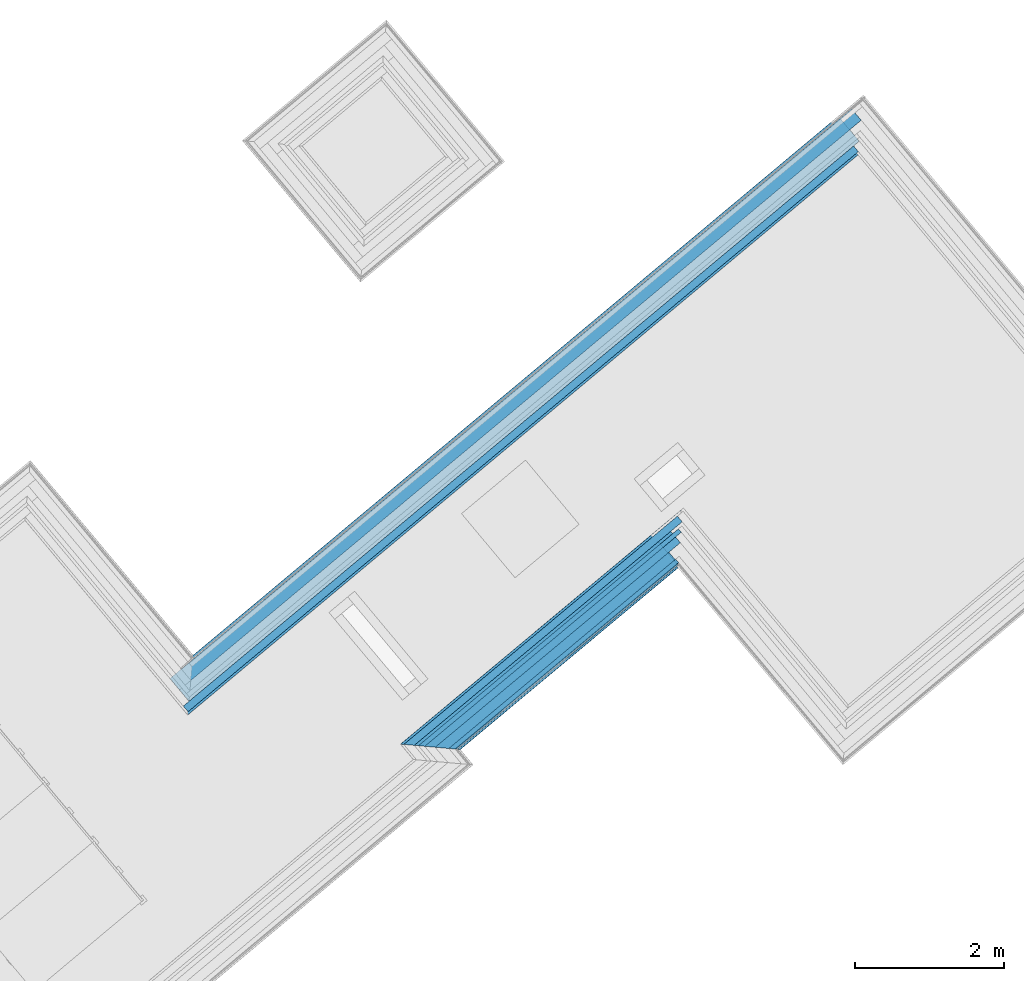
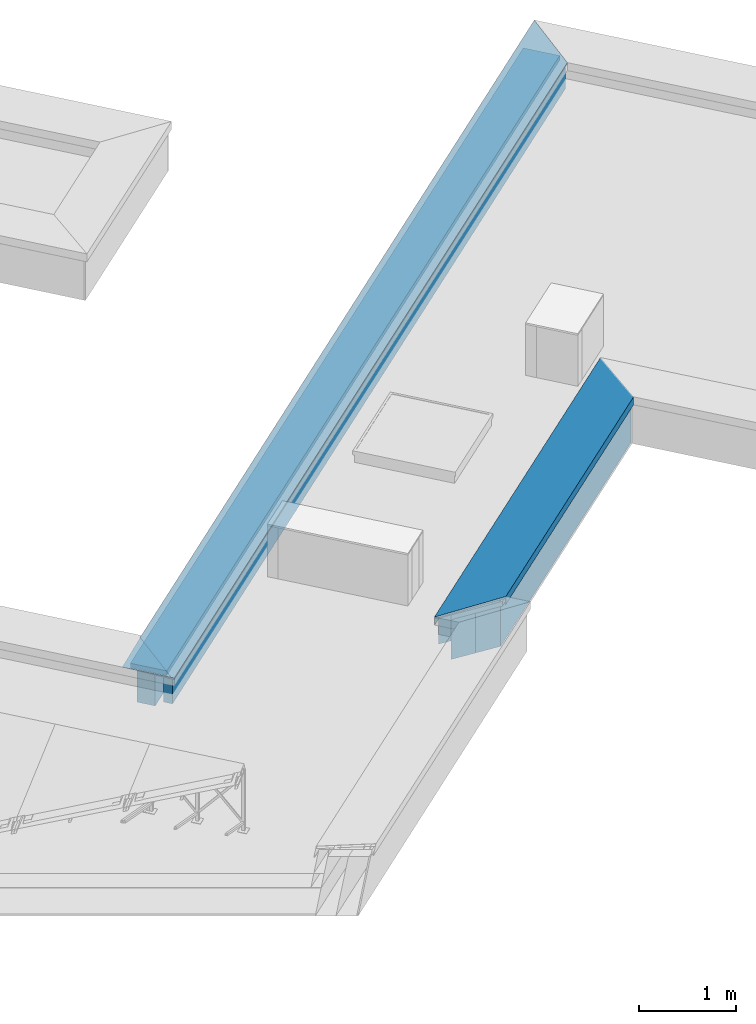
# One storey, part 5 of 13: 12 building element parts, 2 elements without a shape of their own.
"""IFC4 building model written with IfcOpenShell, lengths in metres."""

from ifc_helpers import new_model, entity, si_unit, converted_unit, derived_unit, direction, frame, origin_with_axes, place, context, subcontext, project, spatial, polygons, material, type_object, element, aggregate, save


model = new_model("IFC4")

# Units and contexts
model_context = context("Model", 3, precision=1e-05, world=origin_with_axes(), true_north=direction((0.0, 1.0)))
body_context = subcontext(model_context, "Body", "Model", "MODEL_VIEW")
ifc_project = project(units=[si_unit("LENGTHUNIT", "METRE"), si_unit("AREAUNIT", "SQUARE_METRE"), si_unit("VOLUMEUNIT", "CUBIC_METRE"), converted_unit("PLANEANGLEUNIT", "DEGREE", entity("IfcPlaneAngleMeasure", 0.0174532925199), si_unit("PLANEANGLEUNIT", "RADIAN"), dimensions=[0, 0, 0, 0, 0, 0, 0]), converted_unit("TIMEUNIT", "Year", entity("IfcTimeMeasure", 31556926.0), si_unit("TIMEUNIT", "SECOND"), dimensions=[0, 0, 1, 0, 0, 0, 0]), si_unit("MASSUNIT", "GRAM", prefix="KILO"), si_unit("THERMODYNAMICTEMPERATUREUNIT", "DEGREE_CELSIUS"), si_unit("LUMINOUSINTENSITYUNIT", "LUMEN"), si_unit("ENERGYUNIT", "JOULE", prefix="MEGA"), derived_unit("THERMALCONDUCTANCEUNIT", [(si_unit("POWERUNIT", "WATT"), 1), (si_unit("LENGTHUNIT", "METRE"), -1), (si_unit("THERMODYNAMICTEMPERATUREUNIT", "KELVIN"), -1)]), derived_unit("SPECIFICHEATCAPACITYUNIT", [(si_unit("ENERGYUNIT", "JOULE"), 1), (si_unit("MASSUNIT", "GRAM", prefix="KILO"), -1), (si_unit("THERMODYNAMICTEMPERATUREUNIT", "KELVIN"), -1)]), derived_unit("MASSDENSITYUNIT", [(si_unit("MASSUNIT", "GRAM", prefix="KILO"), 1), (si_unit("VOLUMEUNIT", "CUBIC_METRE"), -1)])], contexts=[model_context])

# Site, building, storey
site_placement = place(None, frame((-0.00153261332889, -0.00661245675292, 0.0), z_axis=(0.0, 0.0, 1.0), x_axis=(1.0, 0.0, 0.0)))
site = spatial("IfcSite", under=ifc_project, at=site_placement, Name="Gelände", CompositionType="ELEMENT")
building_placement = place(site_placement, origin_with_axes())
building = spatial("IfcBuilding", under=site, at=building_placement, Name="Gebäude", CompositionType="ELEMENT")
storey_placement = place(building_placement, frame((0.0, 0.0, 11.84), z_axis=(0.0, 0.0, 1.0), x_axis=(1.0, 0.0, 0.0)))
storey = spatial("IfcBuildingStorey", under=building, at=storey_placement, Name="DA", CompositionType="ELEMENT", Elevation=11.84)

# Wall, building element parts
wall_type_1 = type_object("IfcWallType", Name="Bauteil - Attika Stehfalz 574 x 670", PredefinedType="NOTDEFINED")
wall_1_placement = place(storey_placement, frame((-0.976428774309, 18.8021580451, 0.0), z_axis=(0.0, 0.0, 1.0), x_axis=(0.767365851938, 0.641209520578, 0.0)))
wall_1 = element("IfcWall", 1, at=wall_1_placement, inside=storey, type_object=wall_type_1, Name="Wand-004", PredefinedType="NOTDEFINED")
ifc_material_1 = material(Name="EPS 1")
building_element_part_1_placement = place(wall_1_placement, origin_with_axes())
building_element_part_1 = element("IfcBuildingElementPart", 2, at=building_element_part_1_placement, material=ifc_material_1, Name="EPS 1", PredefinedType="NOTDEFINED", context=body_context, shape_type="Tessellation", body=[
    polygons([(11.7621019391, 0.19999996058, 0.5), (0.0, 0.19999996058, 0.5), (0.0, -1.2725180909e-09, 0.5), (11.7621019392, -1.27252164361e-09, 0.5), (0.0, 0.19999996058, 0.491006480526), (0.0, 0.19999996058, 0.498822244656), (11.7621019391, 0.19999996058, 0.498822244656), (11.7621019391, 0.19999996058, 0.491006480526), (11.7621019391, 0.19999996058, 0.488695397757), (11.7621019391, 0.19999996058, 0.235000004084), (11.7621019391, 0.19999996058, 0.0), (11.7621019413, 0.19999996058, -0.06), (7.48079768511, 0.19999996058, -0.06), (7.48079768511, 0.19999996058, -0.00130460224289), (7.48079768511, 0.19999996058, 0.00100648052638), (7.48079768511, 0.19999996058, 0.00882224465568), (7.48079768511, 0.19999996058, 0.01), (7.2807976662, 0.19999996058, 0.01), (7.28079766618, 0.19999996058, 0.00882224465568), (7.28079766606, 0.19999996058, 0.00100648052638), (7.28079766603, 0.19999996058, -0.00130460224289), (7.28079766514, 0.19999996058, -0.06), (5.63007431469, 0.19999996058, -0.06), (5.63007431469, 0.19999996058, 0.0), (5.43007429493, 0.19999996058, 0.0), (5.43007429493, 0.19999996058, -0.06), (0.0, 0.19999996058, -0.06), (0.0, 0.19999996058, 0.0), (0.0, 0.19999996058, 0.235000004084), (0.0, 0.19999996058, 0.488695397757), (0.0, -1.2725180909e-09, 0.498822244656), (0.0, -1.2725180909e-09, 0.491006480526), (0.0, -1.2725180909e-09, 0.488695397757), (0.0, -1.2725180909e-09, 0.235000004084), (0.0, -1.27251986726e-09, 0.0), (0.0, -1.27251986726e-09, -0.06), (5.42998538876, -1.2725180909e-09, -0.06), (5.42998538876, -1.2725180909e-09, 0.0), (5.62998540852, -1.2725180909e-09, 0.0), (5.62998540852, -1.2725180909e-09, -0.06), (7.28071069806, -1.27251986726e-09, -0.06), (7.28071069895, -1.27251986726e-09, -0.00130460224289), (7.28071069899, -1.27251986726e-09, 0.00100648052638), (7.2807106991, -1.2725180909e-09, 0.00882224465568), (7.28071069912, -1.2725180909e-09, 0.01), (7.48071071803, -1.2725180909e-09, 0.01), (7.48071071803, -1.2725180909e-09, 0.00882224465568), (7.48071071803, -1.2725180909e-09, 0.00100648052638), (7.48071071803, -1.2725180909e-09, -0.00130460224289), (7.48071071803, -1.27251986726e-09, -0.06), (11.7621019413, -1.2725180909e-09, -0.06), (11.7621019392, -1.27251986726e-09, 0.0), (11.7621019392, -1.27251986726e-09, 0.235000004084), (11.7621019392, -1.27251986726e-09, 0.488695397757), (11.7621019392, -1.27251986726e-09, 0.491006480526), (11.7621019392, -1.27251986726e-09, 0.498822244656)], [[[1, 2, 3, 4]], [[5, 6, 2, 1, 7, 8, 9, 10, 11, 12, 13, 14, 15, 16, 17, 18, 19, 20, 21, 22, 23, 24, 25, 26, 27, 28, 29, 30]], [[6, 31, 3, 2]], [[4, 3, 31, 32, 33, 34, 35, 36, 37, 38, 39, 40, 41, 42, 43, 44, 45, 46, 47, 48, 49, 50, 51, 52, 53, 54, 55, 56]], [[7, 1, 4, 56]], [[32, 31, 6, 5]], [[8, 7, 56, 55]], [[9, 8, 55, 54]], [[10, 9, 54, 53]], [[11, 10, 53, 52]], [[12, 11, 52, 51]], [[51, 50, 13, 12]], [[50, 49, 14, 13]], [[49, 48, 15, 14]], [[48, 47, 16, 15]], [[16, 47, 46, 17]], [[17, 46, 45, 18]], [[18, 45, 44, 19]], [[20, 19, 44, 43]], [[21, 20, 43, 42]], [[22, 21, 42, 41]], [[23, 22, 41, 40]], [[23, 40, 39, 24]], [[24, 39, 38, 25]], [[25, 38, 37, 26]], [[27, 26, 37, 36]], [[36, 35, 28, 27]], [[35, 34, 29, 28]], [[34, 33, 30, 29]], [[33, 32, 5, 30]]], closed=True),
])
ifc_material_2 = material(Name="Brettschichtholz")
building_element_part_2_placement = place(wall_1_placement, origin_with_axes())
building_element_part_2 = element("IfcBuildingElementPart", 3, at=building_element_part_2_placement, material=ifc_material_2, Name="Brettschichtholz", PredefinedType="NOTDEFINED", context=body_context, shape_type="Tessellation", body=[
    polygons([(-0.200000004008, -0.159999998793, 0.560000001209), (-0.200000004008, -0.200000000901, 0.560000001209), (11.5621019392, -0.200000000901, 0.560000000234), (11.5621019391, -0.159999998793, 0.560000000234), (-0.200000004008, -0.200000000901, 0.519224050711), (-0.200000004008, -0.09999999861, 0.560000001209), (-0.200000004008, 0.13012497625, 0.560000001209), (-0.200000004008, 0.190124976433, 0.560000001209), (-0.200000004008, 0.19999996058, 0.560000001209), (-0.200000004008, 0.19999996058, 0.519224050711), (-0.200000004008, -0.200000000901, 0.51136132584), (-0.200000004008, -0.200000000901, 0.509050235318), (-0.200000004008, -0.200000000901, 0.499999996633), (11.5621019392, -0.200000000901, 0.499999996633), (11.5621019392, -0.200000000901, 0.509050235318), (11.5621019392, -0.200000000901, 0.51136132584), (11.5621019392, -0.200000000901, 0.519224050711), (11.5621019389, 0.19999996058, 0.519224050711), (11.5621019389, 0.19999996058, 0.560000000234), (11.5621019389, 0.190124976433, 0.560000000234), (11.562101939, 0.13012497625, 0.560000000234), (11.5621019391, -0.09999999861, 0.560000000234), (11.5621019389, 0.19999996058, 0.51136132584), (11.5621019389, 0.19999996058, 0.509050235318), (11.5621019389, 0.19999996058, 0.499999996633), (-0.200000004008, 0.19999996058, 0.499999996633), (-0.200000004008, 0.19999996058, 0.509050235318), (-0.200000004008, 0.19999996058, 0.51136132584)], [[[1, 2, 3, 4]], [[5, 2, 1, 6, 7, 8, 9, 10]], [[2, 5, 11, 12, 13, 14, 15, 16, 17, 3]], [[4, 3, 17, 18, 19, 20, 21, 22]], [[6, 1, 4, 22]], [[7, 6, 22, 21]], [[8, 7, 21, 20]], [[9, 8, 20, 19]], [[10, 9, 19, 18, 23, 24, 25, 26, 27, 28]], [[5, 10, 28, 11]], [[11, 28, 27, 12]], [[12, 27, 26, 13]], [[13, 26, 25, 14]], [[24, 15, 14, 25]], [[23, 16, 15, 24]], [[18, 17, 16, 23]]], closed=True),
])
building_element_part_3_placement = place(wall_1_placement, origin_with_axes())
building_element_part_3 = element("IfcBuildingElementPart", 4, at=building_element_part_3_placement, material=ifc_material_1, Name="EPS 1", PredefinedType="NOTDEFINED", context=body_context, shape_type="Tessellation", body=[
    polygons([(-0.299999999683, -0.20000000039, 0.560000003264), (-0.299999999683, -0.300000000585, 0.560000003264), (11.4621019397, -0.300000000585, 0.560000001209), (11.4621019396, -0.20000000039, 0.560000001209), (-0.30000000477, -0.300000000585, 0.519224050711), (-0.30000000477, -0.20000000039, 0.519224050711), (-0.300000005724, -0.300000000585, 0.51136132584), (-0.300000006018, -0.300000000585, 0.509050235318), (-0.300000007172, -0.300000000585, 0.499999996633), (-0.300000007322, -0.300000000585, 0.498822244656), (-0.300000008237, -0.300000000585, 0.491006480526), (-0.300000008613, -0.300000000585, 0.4886954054), (-0.30000000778, -0.300000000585, 0.23500000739), (11.4621019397, -0.300000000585, 0.235000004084), (11.4621019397, -0.300000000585, 0.488695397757), (11.4621019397, -0.300000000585, 0.491006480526), (11.4621019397, -0.300000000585, 0.498822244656), (11.4621019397, -0.300000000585, 0.499999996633), (11.4621019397, -0.300000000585, 0.509050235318), (11.4621019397, -0.300000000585, 0.51136132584), (11.4621019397, -0.300000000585, 0.519224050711), (11.4621019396, -0.20000000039, 0.519224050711), (11.4621019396, -0.20000000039, 0.51136132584), (11.4621019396, -0.20000000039, 0.509050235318), (11.4621019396, -0.20000000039, 0.499999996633), (11.4621019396, -0.20000000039, 0.498822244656), (11.4621019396, -0.20000000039, 0.491006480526), (11.4621019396, -0.20000000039, 0.488695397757), (11.4621019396, -0.20000000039, 0.235000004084), (-0.30000000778, -0.20000000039, 0.23500000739), (-0.300000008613, -0.20000000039, 0.4886954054), (-0.300000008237, -0.20000000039, 0.491006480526), (-0.300000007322, -0.20000000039, 0.498822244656), (-0.300000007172, -0.20000000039, 0.499999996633), (-0.300000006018, -0.20000000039, 0.509050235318), (-0.300000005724, -0.20000000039, 0.51136132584)], [[[1, 2, 3, 4]], [[5, 2, 1, 6]], [[2, 5, 7, 8, 9, 10, 11, 12, 13, 14, 15, 16, 17, 18, 19, 20, 21, 3]], [[4, 3, 21, 22]], [[6, 1, 4, 22, 23, 24, 25, 26, 27, 28, 29, 30, 31, 32, 33, 34, 35, 36]], [[5, 6, 36, 7]], [[7, 36, 35, 8]], [[8, 35, 34, 9]], [[9, 34, 33, 10]], [[10, 33, 32, 11]], [[11, 32, 31, 12]], [[12, 31, 30, 13]], [[29, 14, 13, 30]], [[28, 15, 14, 29]], [[27, 16, 15, 28]], [[26, 17, 16, 27]], [[25, 18, 17, 26]], [[24, 19, 18, 25]], [[23, 20, 19, 24]], [[22, 21, 20, 23]]], closed=True),
])
ifc_material_3 = material(Name="Holzwerkstoff")
building_element_part_4_placement = place(wall_1_placement, origin_with_axes())
building_element_part_4 = element("IfcBuildingElementPart", 5, at=building_element_part_4_placement, material=ifc_material_3, Name="Holzwerkstoff", PredefinedType="NOTDEFINED", context=body_context, shape_type="Tessellation", body=[
    polygons([(-0.330207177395, -0.160110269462, 0.573880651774), (-0.329999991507, -0.329999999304, 0.567947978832), (-0.330207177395, -0.330207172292, 0.573880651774), (11.4318947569, -0.160110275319, 0.573880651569), (11.4321019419, -0.329999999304, 0.567947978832), (-0.330634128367, -0.330634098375, 0.586106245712), (-0.330561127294, -0.330561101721, 0.584015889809), (-0.330280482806, -0.330280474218, 0.575979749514), (11.431894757, -0.330207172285, 0.573880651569), (11.4318214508, -0.330280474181, 0.575979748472), (11.4315408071, -0.330561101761, 0.584015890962), (11.4314678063, -0.330634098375, 0.586106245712), (11.4314038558, -0.330698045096, 0.587937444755), (-0.330665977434, -0.330698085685, 0.587938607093), (-0.330698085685, -0.330698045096, 0.587937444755), (-0.330280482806, -0.10000001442, 0.575979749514), (11.4318214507, -0.100000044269, 0.575979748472), (-0.330634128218, 0.189984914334, 0.586106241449), (-0.330561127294, 0.130125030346, 0.584015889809), (11.4315408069, 0.130125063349, 0.584015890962), (11.431467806, 0.189985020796, 0.586106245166), (11.4314068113, 0.239999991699, 0.587852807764), (11.4314038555, 0.23999703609, 0.587937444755), (0.239276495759, 0.239276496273, 0.608570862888), (12.0013783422, 0.239276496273, 0.608570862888), (-0.330698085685, 0.23999703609, 0.587937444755), (-0.330698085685, 0.239999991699, 0.587852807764)], [[[1, 2, 3]], [[2, 1, 4, 5]], [[6, 7, 8, 3, 2, 5, 9, 10, 11, 12, 13, 14, 15]], [[16, 1, 3, 8]], [[1, 16, 17, 4]], [[5, 4, 9]], [[7, 6, 18, 19]], [[8, 7, 19, 16]], [[4, 17, 10, 9]], [[17, 20, 11, 10]], [[20, 21, 12, 11]], [[13, 12, 21, 22, 23]], [[24, 14, 13, 25]], [[15, 14, 24, 26]], [[6, 15, 26, 27, 18]], [[16, 19, 20, 17]], [[19, 18, 21, 20]], [[18, 27, 22, 21]], [[27, 26, 24, 25, 23, 22]], [[25, 13, 23]]], closed=True),
])
aggregate(wall_1, [building_element_part_1, building_element_part_2, building_element_part_3, building_element_part_4])

wall_type_2 = type_object("IfcWallType", Name="Individuelles Profil 574 x 610", PredefinedType="NOTDEFINED")
wall_2_placement = place(storey_placement, frame((2.3134110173, 17.9017514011, 0.0), z_axis=(0.0, 0.0, 1.0), x_axis=(0.76785707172, 0.640621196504, 0.0)))
wall_2 = element("IfcWall", 6, at=wall_2_placement, inside=storey, type_object=wall_type_2, Name="Wand-004", PredefinedType="NOTDEFINED")
ifc_material_4 = material(Name="Stahl")
building_element_part_5_placement = place(wall_2_placement, origin_with_axes())
building_element_part_5 = element("IfcBuildingElementPart", 7, at=building_element_part_5_placement, material=ifc_material_4, Name="Stahl", PredefinedType="NOTDEFINED", context=body_context, shape_type="Tessellation", body=[
    polygons([(0.241500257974, -0.241500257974, 0.510007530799), (4.05779835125, -0.241500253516, 0.510007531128), (4.05779835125, -0.241500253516, 0.511361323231), (4.05779835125, -0.241500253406, 0.519224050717), (4.05779835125, -0.241500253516, 0.559999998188), (4.05779835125, -0.241500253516, 0.567947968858), (4.05779835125, -0.241500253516, 0.573880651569), (4.05779835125, -0.241500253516, 0.575979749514), (4.05779835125, -0.241500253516, 0.584015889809), (4.05779835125, -0.241500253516, 0.586106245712), (4.05779835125, -0.241500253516, 0.587937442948), (4.05779835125, -0.241500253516, 0.608570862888), (4.05779835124, -0.241500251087, 0.608602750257), (4.05779834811, -0.241500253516, 0.610006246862), (0.241500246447, -0.241500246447, 0.610006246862), (0.240542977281, -0.240542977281, 0.509050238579), (4.05875428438, -0.240542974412, 0.509050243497), (4.05779563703, -0.239585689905, 0.510007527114), (4.05779371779, -0.238231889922, 0.511361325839), (4.057796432, -0.240146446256, 0.511361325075), (4.05779643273, -0.240146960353, 0.519224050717), (4.0577964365, -0.240149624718, 0.559999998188), (4.05779643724, -0.240150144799, 0.567947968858), (4.05779643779, -0.240150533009, 0.573880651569), (4.05779643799, -0.240150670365, 0.575979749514), (4.05779643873, -0.240151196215, 0.584015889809), (4.05779643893, -0.240151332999, 0.586106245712), (4.0577964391, -0.240151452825, 0.587937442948), (4.05779644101, -0.240152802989, 0.608570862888), (4.05779644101, -0.240152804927, 0.608602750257), (4.05774338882, -0.202730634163, 0.608602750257), (-0.332051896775, 0.332051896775, 0.589243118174), (4.05909083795, -0.202730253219, 0.608602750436), (4.05996589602, -0.201849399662, 0.608570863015), (4.59311659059, 0.332051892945, 0.589243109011), (-0.332051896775, 0.332051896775, 0.489652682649), (-0.331094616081, 0.331094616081, 0.488695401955), (-0.321878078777, 0.321878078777, 0.497911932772), (-0.32288233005, 0.32288233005, 0.498822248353), (-0.330698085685, 0.330698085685, 0.491006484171), (-0.330698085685, 0.330698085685, 0.587937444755), (0.239276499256, -0.239276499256, 0.608570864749), (0.240152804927, -0.240152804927, 0.608602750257), (0.240146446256, -0.240146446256, 0.51136132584), (0.232283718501, -0.232283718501, 0.519224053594), (0.231373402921, -0.231373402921, 0.518219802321), (4.06599629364, -0.23137340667, 0.518219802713), (4.05914752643, -0.238231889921, 0.51136132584), (4.05915024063, -0.24014644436, 0.511361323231), (4.05914389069, -0.240152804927, 0.608602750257), (4.0600189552, -0.239276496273, 0.608570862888), (4.62918607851, 0.330698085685, 0.587937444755), (4.62918415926, 0.332051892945, 0.587937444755), (4.62918415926, 0.332051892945, 0.586106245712), (4.62918415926, 0.332051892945, 0.584015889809), (4.62918415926, 0.332051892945, 0.575979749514), (4.62918415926, 0.332051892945, 0.573880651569), (4.62918415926, 0.332051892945, 0.567947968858), (4.62918415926, 0.332051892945, 0.560000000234), (4.62918415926, 0.332051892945, 0.519224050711), (4.62918415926, 0.332051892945, 0.51136132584), (4.62918415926, 0.332051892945, 0.509050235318), (4.62918415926, 0.332051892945, 0.499999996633), (4.62918415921, 0.332051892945, 0.498822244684), (4.62918415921, 0.332051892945, 0.491006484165), (4.62726960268, 0.332051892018, 0.491006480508), (4.62862340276, 0.332051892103, 0.489652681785), (4.62958204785, 0.331094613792, 0.488695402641), (4.62727423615, 0.328783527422, 0.491006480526), (4.62037856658, 0.32187807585, 0.497911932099), (4.62138139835, 0.322882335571, 0.498822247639), (4.62037585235, 0.323792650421, 0.497911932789), (4.62727152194, 0.33069808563, 0.491006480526), (4.62918607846, 0.330698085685, 0.491006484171), (4.62918607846, 0.330698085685, 0.498822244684), (4.62918607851, 0.330698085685, 0.499999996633), (4.62918607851, 0.330698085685, 0.509050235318), (4.62918607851, 0.330698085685, 0.51136132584), (4.62918607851, 0.330698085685, 0.519224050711), (4.62918607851, 0.330698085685, 0.560000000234), (4.62918607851, 0.330698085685, 0.567947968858), (4.62918607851, 0.330698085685, 0.573880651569), (4.62918607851, 0.330698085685, 0.575979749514), (4.62918607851, 0.330698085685, 0.584015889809), (4.62918607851, 0.330698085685, 0.586106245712), (4.06700183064, -0.23228372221, 0.519224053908)], [[[1, 2, 3, 4, 5, 6, 7, 8, 9, 10, 11, 12, 13, 14, 15]], [[1, 16, 17, 2]], [[18, 19, 20, 3, 2]], [[20, 21, 4, 3]], [[21, 22, 5, 4]], [[5, 22, 23, 6]], [[7, 6, 23, 24]], [[8, 7, 24, 25]], [[9, 8, 25, 26]], [[10, 9, 26, 27]], [[11, 10, 27, 28]], [[12, 11, 28, 29]], [[30, 13, 12, 29]], [[30, 31, 14, 13]], [[32, 15, 14, 31, 33, 34, 35]], [[16, 1, 15, 32, 36, 37, 38, 39, 40, 41, 42, 43, 44, 45, 46]], [[16, 46, 47, 48, 19, 18, 17]], [[18, 2, 17]], [[20, 19, 48, 49]], [[44, 43, 30, 29, 28, 27, 26, 25, 24, 23, 22, 21, 20]], [[33, 31, 30, 50]], [[34, 33, 50, 51]], [[34, 51, 52, 53, 35]], [[36, 32, 35, 53, 54, 55, 56, 57, 58, 59, 60, 61, 62, 63, 64, 65, 66, 67]], [[37, 36, 67, 68]], [[38, 37, 68, 69, 70]], [[39, 38, 70, 71]], [[40, 39, 71, 72, 73]], [[41, 40, 73, 74, 75, 76, 77, 78, 79, 80, 81, 82, 83, 84, 85, 52]], [[42, 41, 52, 51]], [[43, 42, 51, 50, 30]], [[45, 44, 20, 49, 86]], [[46, 45, 86, 47]], [[48, 47, 86, 49]], [[52, 85, 54, 53]], [[84, 55, 54, 85]], [[83, 56, 55, 84]], [[57, 56, 83, 82]], [[58, 57, 82, 81]], [[59, 58, 81, 80]], [[60, 59, 80, 79]], [[61, 60, 79, 78]], [[62, 61, 78, 77]], [[63, 62, 77, 76]], [[64, 63, 76, 75]], [[65, 64, 75, 74]], [[73, 66, 65, 74]], [[66, 73, 69, 68, 67]], [[72, 70, 69, 73]], [[70, 72, 71]]], closed=True),
])
building_element_part_6_placement = place(wall_2_placement, origin_with_axes())
building_element_part_6 = element("IfcBuildingElementPart", 8, at=building_element_part_6_placement, material=ifc_material_3, Name="Holzwerkstoff", PredefinedType="NOTDEFINED", context=body_context, shape_type="Tessellation", body=[
    polygons([(-0.329999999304, 0.329999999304, 0.567947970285), (-0.330698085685, 0.330698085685, 0.587937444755), (4.05849038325, 0.330698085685, 0.587937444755), (4.05848743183, 0.330695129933, 0.587852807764), (4.10850253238, 0.330634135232, 0.586106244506), (4.16836274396, 0.330561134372, 0.584015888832), (4.3984883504, 0.330280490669, 0.575979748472), (4.45859874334, 0.330207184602, 0.573880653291), (4.62848894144, 0.329999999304, 0.567947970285), (0.189984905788, -0.189984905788, 0.586106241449), (0.239999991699, -0.239999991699, 0.587852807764), (0.239276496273, -0.239276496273, 0.608570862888), (-0.160110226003, 0.160110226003, 0.573880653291), (-0.0999999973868, 0.0999999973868, 0.575979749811), (0.130124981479, -0.130124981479, 0.584015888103), (4.06001895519, -0.239276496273, 0.608570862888), (4.05929943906, -0.239997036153, 0.587937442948), (4.0592964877, -0.239999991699, 0.587852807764), (4.10924068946, -0.189984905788, 0.586106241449), (4.16901592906, -0.130124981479, 0.584015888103), (4.39881479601, 0.0999999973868, 0.575979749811), (4.45883988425, 0.160110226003, 0.573880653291)], [[[1, 2, 3, 4, 5, 6, 7, 8, 9]], [[10, 11, 12, 2, 1, 13, 14, 15]], [[2, 12, 16, 3]], [[17, 18, 4, 3]], [[4, 18, 19, 5]], [[6, 5, 19, 20]], [[7, 6, 20, 21]], [[8, 7, 21, 22]], [[22, 9, 8]], [[13, 1, 9, 22]], [[11, 10, 19, 18]], [[12, 11, 18, 17, 16]], [[14, 13, 22, 21]], [[15, 14, 21, 20]], [[10, 15, 20, 19]], [[16, 17, 3]]], closed=True),
])
building_element_part_7_placement = place(wall_2_placement, origin_with_axes())
building_element_part_7 = element("IfcBuildingElementPart", 9, at=building_element_part_7_placement, material=ifc_material_1, Name="EPS 1", PredefinedType="NOTDEFINED", context=body_context, shape_type="Tessellation", body=[
    polygons([(-0.300000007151, 0.300000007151, 0.488695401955), (-0.30000000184, 0.30000000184, 0.560000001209), (4.49853138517, 0.30000000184, 0.560000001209), (4.49853138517, 0.300000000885, 0.519224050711), (4.49853138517, 0.300000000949, 0.51136132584), (4.49853138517, 0.300000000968, 0.509050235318), (4.49853138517, 0.300000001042, 0.499999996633), (4.49853138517, 0.300000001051, 0.498822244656), (4.49853138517, 0.300000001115, 0.491006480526), (4.49853138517, 0.300000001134, 0.488695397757), (4.49853138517, 0.300000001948, 0.23500000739), (-0.300000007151, 0.300000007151, 0.23500000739), (-0.200000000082, 0.200000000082, 0.23500000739), (-0.200000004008, 0.200000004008, 0.560000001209), (4.49867315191, 0.200000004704, 0.560000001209), (4.49867315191, 0.200000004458, 0.519224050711), (4.49867315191, 0.200000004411, 0.51136132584), (4.49867315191, 0.200000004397, 0.509050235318), (4.49867315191, 0.200000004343, 0.499999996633), (4.49867315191, 0.200000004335, 0.498822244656), (4.49867315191, 0.200000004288, 0.491006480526), (4.49867315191, 0.200000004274, 0.488695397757), (4.49867315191, 0.200000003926, 0.23500000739)], [[[1, 2, 3, 4, 5, 6, 7, 8, 9, 10, 11, 12]], [[13, 14, 2, 1, 12]], [[2, 14, 15, 3]], [[15, 16, 4, 3]], [[16, 17, 5, 4]], [[17, 18, 6, 5]], [[18, 19, 7, 6]], [[19, 20, 8, 7]], [[20, 21, 9, 8]], [[21, 22, 10, 9]], [[23, 11, 10, 22]], [[13, 12, 11, 23]], [[14, 13, 23, 22, 21, 20, 19, 18, 17, 16, 15]]], closed=True),
])
ifc_material_5 = material(Name="Vollholz")
building_element_part_8_placement = place(wall_2_placement, origin_with_axes())
building_element_part_8 = element("IfcBuildingElementPart", 10, at=building_element_part_8_placement, material=ifc_material_5, Name="Vollholz", PredefinedType="NOTDEFINED", context=body_context, shape_type="Tessellation", body=[
    polygons([(4.39881481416, 0.1, 0.573880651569), (4.39881481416, 0.100000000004, 0.575979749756), (-0.1, 0.1, 0.575979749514), (-0.1, 0.1, 0.560000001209), (4.39881481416, 0.1, 0.560000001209), (4.39881481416, 0.1, 0.567947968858), (4.39872959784, 0.160110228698, 0.573880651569), (-0.160110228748, 0.160110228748, 0.573880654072), (-0.16, 0.16, 0.560000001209), (4.39872975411, 0.16, 0.560000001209), (4.39872966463, 0.160063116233, 0.567947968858)], [[[1, 2, 3, 4, 5, 6]], [[7, 2, 1]], [[2, 7, 8, 3]], [[9, 4, 3, 8]], [[10, 5, 4, 9]], [[11, 6, 5, 10]], [[7, 1, 6, 11]], [[7, 11, 10, 9, 8]]], closed=True),
])
ifc_material_6 = material(Name="Stahlbeton Wand Garage")
building_element_part_9_placement = place(wall_2_placement, origin_with_axes())
building_element_part_9 = element("IfcBuildingElementPart", 11, at=building_element_part_9_placement, material=ifc_material_6, Name="Stahlbeton Wand Garage", PredefinedType="NOTDEFINED", context=body_context, shape_type="Tessellation", body=[
    polygons([(-0.200000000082, 0.200000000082, 0.0), (-0.200000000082, 0.200000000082, 0.23500000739), (4.29867294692, 0.200000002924, 0.235000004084), (4.29867294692, 0.20000000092, 0.0), (0.0, 0.0, 0.0), (0.0, 0.0, 0.5), (-0.2, 0.2, 0.5), (4.29867294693, 0.2, 0.5), (4.29867294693, 0.200000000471, 0.498822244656), (4.29867294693, 0.200000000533, 0.491006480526), (4.29867294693, 0.200000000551, 0.488695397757), (4.2989564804, 4.3705590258e-09, 0.235000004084), (4.2989564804, 4.43951542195e-09, 0.0), (4.2989564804, 4.29611368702e-09, 0.488695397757), (4.2989564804, 4.29543689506e-09, 0.491006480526), (4.2989564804, 4.29314184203e-09, 0.498822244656), (4.29895648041, 0.0, 0.5)], [[[1, 2, 3, 4]], [[5, 6, 7, 2, 1]], [[2, 7, 8, 9, 10, 11, 3]], [[12, 13, 4, 3]], [[5, 1, 4, 13]], [[6, 5, 13, 12, 14, 15, 16, 17]], [[7, 6, 17, 8]], [[8, 17, 16, 9]], [[10, 9, 16, 15]], [[15, 14, 11, 10]], [[14, 12, 3, 11]]], closed=True),
])
building_element_part_10_placement = place(wall_2_placement, origin_with_axes())
building_element_part_10 = element("IfcBuildingElementPart", 12, at=building_element_part_10_placement, material=ifc_material_2, Name="Brettschichtholz", PredefinedType="NOTDEFINED", context=body_context, shape_type="Tessellation", body=[
    polygons([(4.084261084, -0.214999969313, 0.519224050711), (4.08426108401, -0.214999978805, 0.55999999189), (0.214999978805, -0.214999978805, 0.55999999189), (0.214999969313, -0.214999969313, 0.50000001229), (4.08426108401, -0.214999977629, 0.499999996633), (4.084261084, -0.214999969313, 0.509050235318), (4.084261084, -0.214999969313, 0.51136132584), (4.08422581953, -0.190124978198, 0.55999999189), (4.08367275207, 0.200000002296, 0.519224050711), (4.08367275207, 0.200000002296, 0.55999999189), (4.08372945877, 0.159999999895, 0.55999999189), (4.08381451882, 0.0999999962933, 0.55999999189), (4.08414075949, -0.130124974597, 0.55999999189), (0.190124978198, -0.190124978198, 0.560000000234), (0.130124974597, -0.130124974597, 0.560000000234), (-0.0999999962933, 0.0999999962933, 0.560000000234), (-0.159999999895, 0.159999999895, 0.560000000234), (-0.200000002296, 0.200000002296, 0.560000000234), (-0.200000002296, 0.200000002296, 0.499999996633), (4.08367275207, 0.200000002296, 0.499999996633), (4.08367275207, 0.200000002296, 0.509050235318), (4.08367275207, 0.200000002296, 0.51136132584)], [[[1, 2, 3, 4, 5, 6, 7]], [[8, 2, 1, 9, 10, 11, 12, 13]], [[2, 8, 14, 3]], [[4, 3, 14, 15, 16, 17, 18, 19]], [[20, 5, 4, 19]], [[21, 6, 5, 20]], [[22, 7, 6, 21]], [[9, 1, 7, 22]], [[10, 9, 22, 21, 20, 19, 18]], [[11, 10, 18, 17]], [[12, 11, 17, 16]], [[13, 12, 16, 15]], [[8, 13, 15, 14]]], closed=True),
])
building_element_part_11_placement = place(wall_2_placement, origin_with_axes())
building_element_part_11 = element("IfcBuildingElementPart", 13, at=building_element_part_11_placement, material=ifc_material_1, Name="EPS 1", PredefinedType="NOTDEFINED", context=body_context, shape_type="Tessellation", body=[
    polygons([(4.09923985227, -0.19999996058, 0.235000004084), (4.09923985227, -0.19999996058, 0.0), (4.09895631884, 2.16659401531e-09, 0.0), (4.09895631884, 2.16659401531e-09, 0.235000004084), (0.19999996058, -0.19999996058, 0.5), (0.19999996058, -0.19999996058, 0.0), (4.09923985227, -0.19999996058, 0.488695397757), (4.09923985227, -0.19999996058, 0.491006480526), (4.09923985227, -0.19999996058, 0.498822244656), (4.09923985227, -0.19999996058, 0.5), (-2.16658868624e-09, 2.16659223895e-09, 0.0), (-2.16659223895e-09, 2.16659401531e-09, 0.5), (4.09895631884, 2.16659223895e-09, 0.5), (4.09895631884, 2.16659046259e-09, 0.498822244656), (4.09895631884, 2.16659046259e-09, 0.491006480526), (4.09895631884, 2.16659401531e-09, 0.488695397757)], [[[1, 2, 3, 4]], [[5, 6, 2, 1, 7, 8, 9, 10]], [[6, 11, 3, 2]], [[11, 12, 13, 14, 15, 16, 4, 3]], [[7, 1, 4, 16]], [[6, 5, 12, 11]], [[8, 7, 16, 15]], [[9, 8, 15, 14]], [[13, 10, 9, 14]], [[12, 5, 10, 13]]], closed=True),
])
building_element_part_12_placement = place(wall_2_placement, origin_with_axes())
building_element_part_12 = element("IfcBuildingElementPart", 14, at=building_element_part_12_placement, material=ifc_material_5, Name="Vollholz", PredefinedType="NOTDEFINED", context=body_context, shape_type="Tessellation", body=[
    polygons([(4.10922951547, -0.189996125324, 0.584015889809), (4.10924071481, -0.189984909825, 0.586106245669), (0.189984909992, -0.189984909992, 0.586106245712), (0.190124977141, -0.190124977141, 0.560000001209), (4.10910084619, -0.190124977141, 0.560000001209), (4.1091434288, -0.190082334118, 0.567947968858), (4.10917521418, -0.190050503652, 0.573880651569), (4.10918646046, -0.190039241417, 0.575979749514), (4.1091446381, -0.130124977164, 0.584015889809), (0.130124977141, -0.130124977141, 0.584015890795), (0.130124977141, -0.130124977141, 0.560000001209), (4.10901578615, -0.130124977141, 0.560000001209), (4.10905842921, -0.130124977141, 0.567947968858), (4.10909025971, -0.130124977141, 0.573880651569), (4.10910152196, -0.130124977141, 0.575979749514)], [[[1, 2, 3, 4, 5, 6, 7, 8]], [[9, 2, 1]], [[2, 9, 10, 3]], [[10, 11, 4, 3]], [[12, 5, 4, 11]], [[13, 6, 5, 12]], [[14, 7, 6, 13]], [[15, 8, 7, 14]], [[9, 1, 8, 15]], [[9, 15, 14, 13, 12, 11, 10]]], closed=True),
])
aggregate(wall_2, [building_element_part_5, building_element_part_6, building_element_part_7, building_element_part_8, building_element_part_9, building_element_part_10, building_element_part_11, building_element_part_12])

save(model, "model.ifc")
